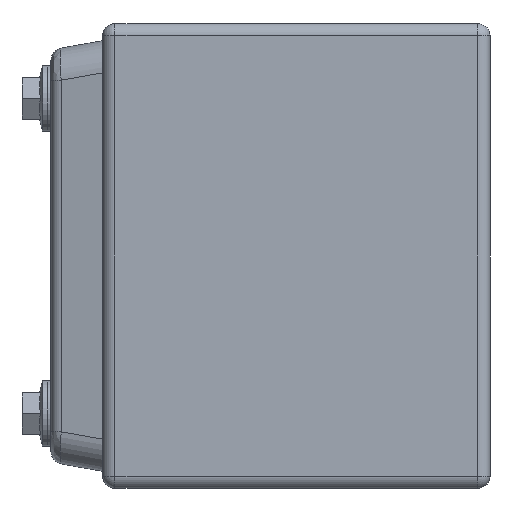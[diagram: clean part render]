
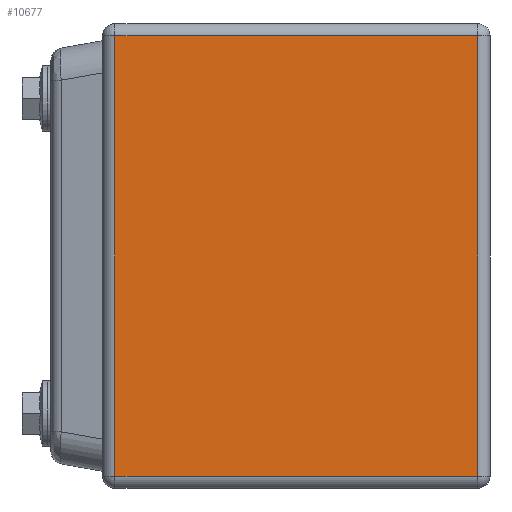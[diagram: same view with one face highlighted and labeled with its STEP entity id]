
A CAD part, left-side view. The second image highlights one B-rep face of the part: STEP entity #10677.
In plain terms, the highlighted planar face has unit normal (-1, 0, 0).
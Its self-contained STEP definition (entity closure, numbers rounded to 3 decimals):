
#218 = CARTESIAN_POINT ( 'NONE',  ( -70., 2.4, -42.6 ) ) ;
#272 = DIRECTION ( 'NONE',  ( 0., 0., 1. ) ) ;
#582 = VERTEX_POINT ( 'NONE', #14548 ) ;
#771 = DIRECTION ( 'NONE',  ( 0., -1., 0. ) ) ;
#931 = VECTOR ( 'NONE', #5379, 1000. ) ;
#1304 = EDGE_LOOP ( 'NONE', ( #9299, #4022, #8781, #8464 ) ) ;
#1375 = CARTESIAN_POINT ( 'NONE',  ( -70., 75., 42.6 ) ) ;
#1531 = DIRECTION ( 'NONE',  ( 0., 0., 1. ) ) ;
#1953 = CARTESIAN_POINT ( 'NONE',  ( -70., 75., -42.6 ) ) ;
#2468 = EDGE_CURVE ( 'NONE', #6900, #582, #6313, .T. ) ;
#3829 = CARTESIAN_POINT ( 'NONE',  ( -70., 75., 45. ) ) ;
#4022 = ORIENTED_EDGE ( 'NONE', *, *, #15541, .T. ) ;
#4597 = VERTEX_POINT ( 'NONE', #13735 ) ;
#4616 = CARTESIAN_POINT ( 'NONE',  ( -70., 72.6, 42.6 ) ) ;
#5034 = EDGE_CURVE ( 'NONE', #13637, #4597, #15242, .T. ) ;
#5271 = DIRECTION ( 'NONE',  ( -1., 0., 0. ) ) ;
#5379 = DIRECTION ( 'NONE',  ( 0., 0., -1. ) ) ;
#5537 = LINE ( 'NONE', #1953, #11833 ) ;
#6313 = LINE ( 'NONE', #8545, #7875 ) ;
#6900 = VERTEX_POINT ( 'NONE', #218 ) ;
#7875 = VECTOR ( 'NONE', #272, 1000. ) ;
#8464 = ORIENTED_EDGE ( 'NONE', *, *, #9765, .T. ) ;
#8545 = CARTESIAN_POINT ( 'NONE',  ( -70., 2.4, 45. ) ) ;
#8781 = ORIENTED_EDGE ( 'NONE', *, *, #2468, .T. ) ;
#8923 = FACE_OUTER_BOUND ( 'NONE', #1304, .T. ) ;
#9299 = ORIENTED_EDGE ( 'NONE', *, *, #5034, .T. ) ;
#9765 = EDGE_CURVE ( 'NONE', #582, #13637, #13520, .T. ) ;
#10677 = ADVANCED_FACE ( 'NONE', ( #8923 ), #13930, .T. ) ;
#11440 = CARTESIAN_POINT ( 'NONE',  ( -70., 72.6, -45. ) ) ;
#11833 = VECTOR ( 'NONE', #771, 1000. ) ;
#12350 = AXIS2_PLACEMENT_3D ( 'NONE', #3829, #5271, #1531 ) ;
#13278 = VECTOR ( 'NONE', #15698, 1000. ) ;
#13520 = LINE ( 'NONE', #1375, #13278 ) ;
#13637 = VERTEX_POINT ( 'NONE', #4616 ) ;
#13735 = CARTESIAN_POINT ( 'NONE',  ( -70., 72.6, -42.6 ) ) ;
#13930 = PLANE ( 'NONE',  #12350 ) ;
#14548 = CARTESIAN_POINT ( 'NONE',  ( -70., 2.4, 42.6 ) ) ;
#15242 = LINE ( 'NONE', #11440, #931 ) ;
#15541 = EDGE_CURVE ( 'NONE', #4597, #6900, #5537, .T. ) ;
#15698 = DIRECTION ( 'NONE',  ( 0., 1., 0. ) ) ;
